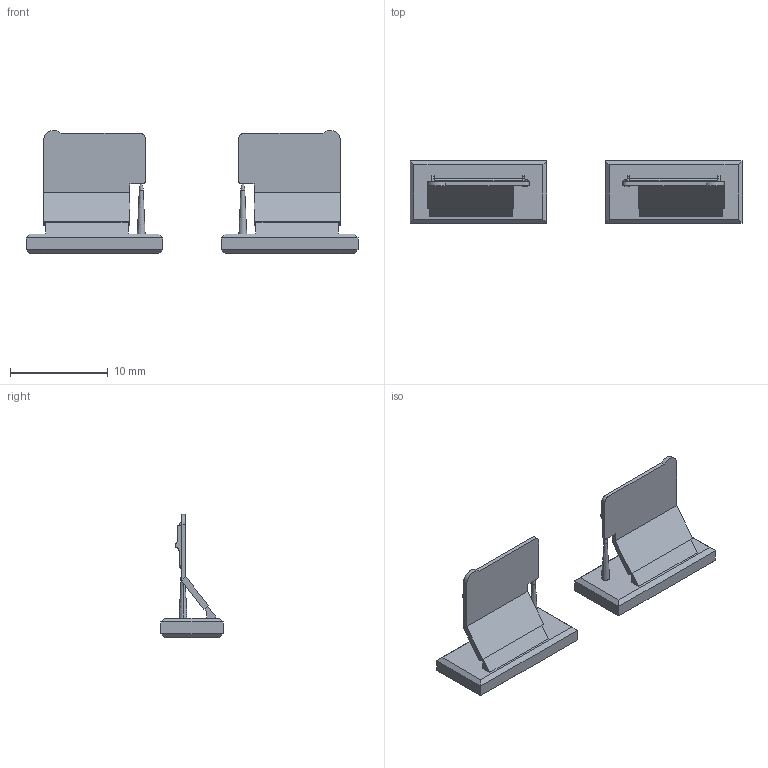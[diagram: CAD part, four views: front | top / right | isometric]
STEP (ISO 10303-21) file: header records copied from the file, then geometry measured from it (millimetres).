
FILE_DESCRIPTION(/* description */ (''),/* implementation_level */ '2;1');
FILE_NAME(/* name */ 'F6DBA5~1',/* time_stamp */ '2021-04-02T13:21:41+02:00',/* author */ (''),/* organization */ (''),/* preprocessor_version */ 'ST-DEVELOPER v16.5',/* originating_system */ '',/* authorisation */ '');
FILE_SCHEMA (('CONFIG_CONTROL_DESIGN'));
Length unit declared in the file: millimetre
Products named in the file (1): Document
Bounding box: 34 x 6.4 x 12.62 mm (x, y, z)
Volume: 463 mm3; surface area: 977.8 mm2
Topology: 2 solids, 2 shells, 386 faces, 916 edges, 572 vertices
Faces by surface type: plane 216, cylinder 120, bspline 50
Entity records: 10776 total; most frequent: CARTESIAN_POINT 4695, ORIENTED_EDGE 1832, EDGE_CURVE 916, VERTEX_POINT 572, EDGE_LOOP 428, B_SPLINE_CURVE_WITH_KNOTS 410, ADVANCED_FACE 386, FACE_OUTER_BOUND 386
